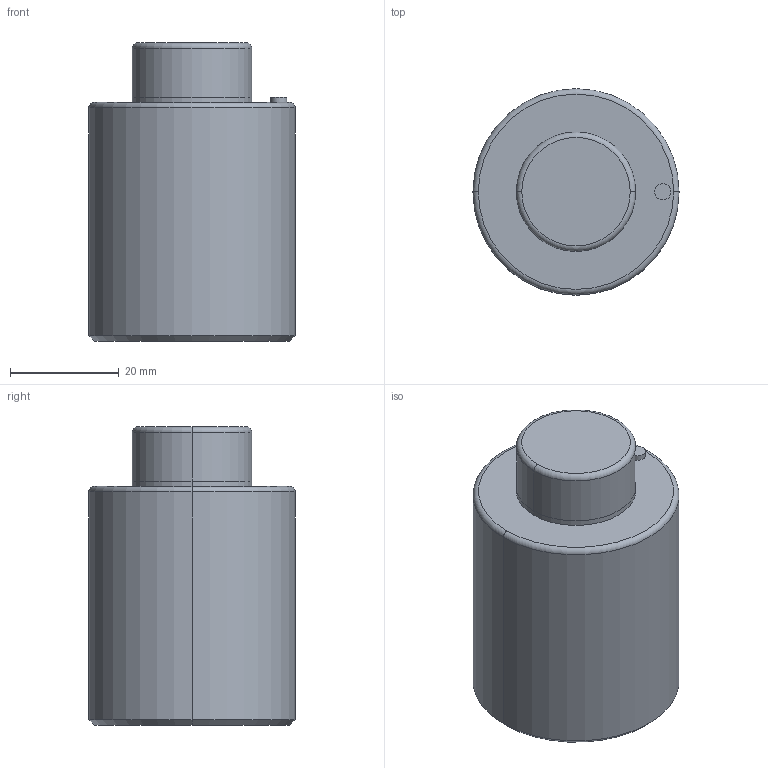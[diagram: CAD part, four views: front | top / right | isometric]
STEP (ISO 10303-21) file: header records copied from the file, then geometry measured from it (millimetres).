
FILE_DESCRIPTION(/* description */ (''),/* implementation_level */ '2;1');
FILE_NAME(/* name */ '3d_gsc38-10_03842_r00.stp',/* time_stamp */ '2011-01-10T14:15:22+09:00',/* author */ ('MISUMI'),/* organization */ (''),/* preprocessor_version */ 'ST-DEVELOPER v11',/* originating_system */ 'UGS - NX 5.0',/* authorisation */ '');
FILE_SCHEMA (('CONFIG_CONTROL_DESIGN'));
Length unit declared in the file: millimetre
Products named in the file (1): 3d_gsc38-10_03842_r00
Bounding box: 38 x 38 x 55 mm (x, y, z)
Volume: 53218.9 mm3; surface area: 8530.3 mm2
Topology: 1 solids, 1 shells, 25 faces, 50 edges, 29 vertices
Faces by surface type: cylinder 12, plane 5, torus 4, cone 4
Entity records: 728 total; most frequent: DIRECTION 132, CARTESIAN_POINT 103, ORIENTED_EDGE 96, AXIS2_PLACEMENT_3D 58, EDGE_CURVE 48, CIRCLE 32, EDGE_LOOP 29, VERTEX_POINT 29
